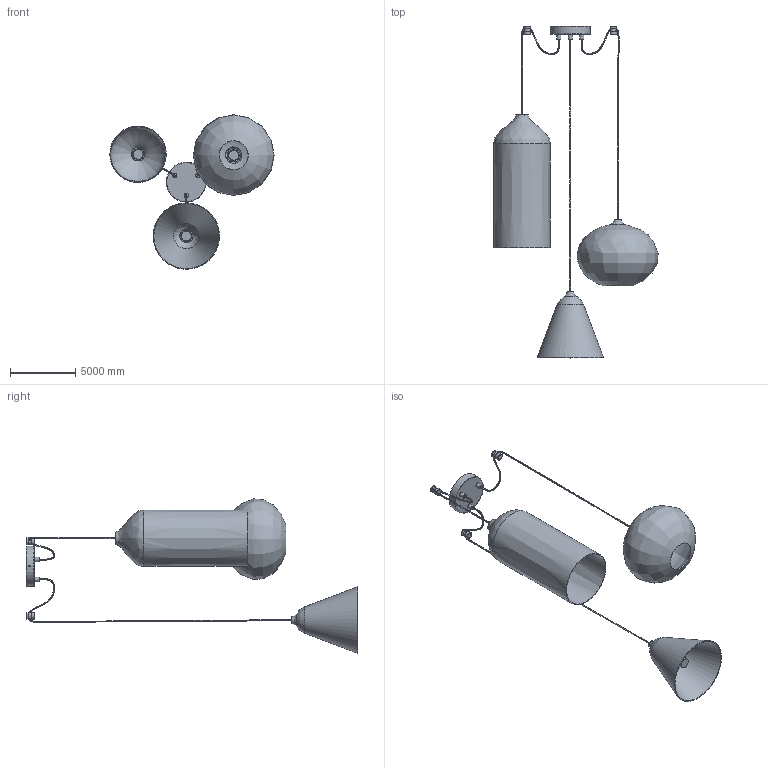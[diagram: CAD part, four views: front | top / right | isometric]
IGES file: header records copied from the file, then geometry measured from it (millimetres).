
Global section: file name: Beliani Pendant Light-Model-D; native system: AutoCAD 2022 - 简体中文 (Simplified Chinese),62HAuto; preprocessor: desk Translation Framework DWG producer (atf_dwg_producer); organization: unknown; date: 20251223.152137; units: inch
Bounding box: 12575.47 x 25400 x 11820.46 mm (x, y, z)
Volume: 19596532820.2 mm3; surface area: 657128982.5 mm2
Topology: 25 solids, 25 shells, 225 faces, 545 edges, 386 vertices
Faces by surface type: bspline 225
